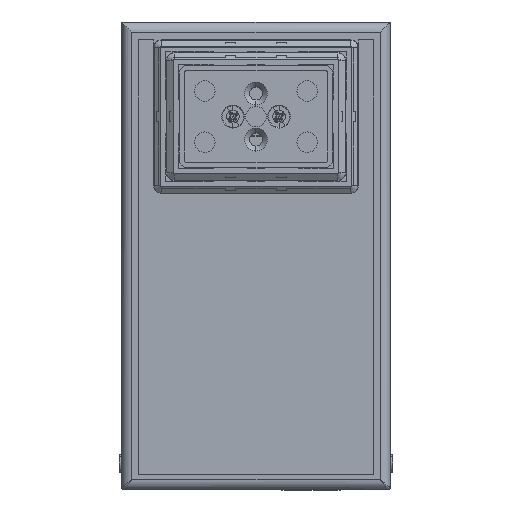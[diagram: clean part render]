
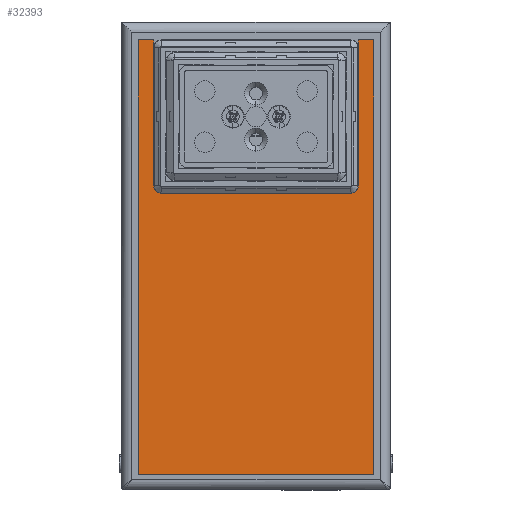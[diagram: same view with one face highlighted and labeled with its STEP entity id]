
A CAD part, front view. The second image highlights one B-rep face of the part: STEP entity #32393.
In plain terms, the highlighted planar face has unit normal (0, -1, 0).
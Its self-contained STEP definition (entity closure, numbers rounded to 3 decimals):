
#661 = DIRECTION ( 'NONE',  ( 0., 1., 0. ) ) ;
#870 = DIRECTION ( 'NONE',  ( -1., 0., 0. ) ) ;
#1010 = CARTESIAN_POINT ( 'NONE',  ( 7.706, 216.018, 592.5 ) ) ;
#2057 = DIRECTION ( 'NONE',  ( 0., 0., -1. ) ) ;
#2787 = CARTESIAN_POINT ( 'NONE',  ( -75.294, 216.018, 652.5 ) ) ;
#3464 = EDGE_CURVE ( 'NONE', #7400, #8303, #13976, .T. ) ;
#4131 = CARTESIAN_POINT ( 'NONE',  ( -69.294, 216.018, 595.5 ) ) ;
#4850 = CARTESIAN_POINT ( 'NONE',  ( 7.706, 216.018, 595.5 ) ) ;
#5019 = DIRECTION ( 'NONE',  ( -1., 0., 0. ) ) ;
#5298 = CARTESIAN_POINT ( 'NONE',  ( -75.294, 216.018, 652.5 ) ) ;
#5343 = VECTOR ( 'NONE', #16591, 1000. ) ;
#5504 = ORIENTED_EDGE ( 'NONE', *, *, #3464, .T. ) ;
#5518 = VERTEX_POINT ( 'NONE', #13903 ) ;
#6473 = CIRCLE ( 'NONE', #35735, 3. ) ;
#6495 = ORIENTED_EDGE ( 'NONE', *, *, #31707, .T. ) ;
#6532 = ORIENTED_EDGE ( 'NONE', *, *, #15066, .T. ) ;
#6822 = VERTEX_POINT ( 'NONE', #20670 ) ;
#7025 = CARTESIAN_POINT ( 'NONE',  ( -69.294, 216.018, 595.5 ) ) ;
#7400 = VERTEX_POINT ( 'NONE', #13274 ) ;
#8060 = CARTESIAN_POINT ( 'NONE',  ( -75.294, 216.018, 482.5 ) ) ;
#8303 = VERTEX_POINT ( 'NONE', #18655 ) ;
#8936 = VERTEX_POINT ( 'NONE', #8060 ) ;
#9476 = ORIENTED_EDGE ( 'NONE', *, *, #22861, .T. ) ;
#9868 = VECTOR ( 'NONE', #36052, 1000. ) ;
#10142 = VECTOR ( 'NONE', #870, 1000. ) ;
#11191 = LINE ( 'NONE', #43189, #45059 ) ;
#11427 = DIRECTION ( 'NONE',  ( -1., 0., 0. ) ) ;
#11631 = CARTESIAN_POINT ( 'NONE',  ( 10.706, 216.018, 652.5 ) ) ;
#12369 = CARTESIAN_POINT ( 'NONE',  ( 7.706, 216.018, 595.5 ) ) ;
#13274 = CARTESIAN_POINT ( 'NONE',  ( 7.706, 216.018, 592.5 ) ) ;
#13903 = CARTESIAN_POINT ( 'NONE',  ( 16.706, 216.018, 652.5 ) ) ;
#13976 = LINE ( 'NONE', #1010, #23433 ) ;
#14742 = VECTOR ( 'NONE', #43099, 1000. ) ;
#15066 = EDGE_CURVE ( 'NONE', #35042, #6822, #26773, .T. ) ;
#15734 = CARTESIAN_POINT ( 'NONE',  ( 16.706, 216.018, 652.5 ) ) ;
#15793 = CARTESIAN_POINT ( 'NONE',  ( -69.294, 216.018, 649.5 ) ) ;
#15996 = VECTOR ( 'NONE', #2057, 1000. ) ;
#16124 = VECTOR ( 'NONE', #49189, 1000. ) ;
#16265 = VECTOR ( 'NONE', #48865, 1000. ) ;
#16571 = CARTESIAN_POINT ( 'NONE',  ( 10.706, 216.018, 595.5 ) ) ;
#16591 = DIRECTION ( 'NONE',  ( 0., 0., 1. ) ) ;
#16902 = LINE ( 'NONE', #5298, #22556 ) ;
#17366 = EDGE_CURVE ( 'NONE', #6822, #17806, #37307, .T. ) ;
#17557 = VERTEX_POINT ( 'NONE', #31283 ) ;
#17645 = CARTESIAN_POINT ( 'NONE',  ( 10.706, 216.018, 652.5 ) ) ;
#17659 = EDGE_CURVE ( 'NONE', #8303, #42435, #25996, .T. ) ;
#17727 = LINE ( 'NONE', #32751, #10142 ) ;
#17728 = ORIENTED_EDGE ( 'NONE', *, *, #42860, .T. ) ;
#17806 = VERTEX_POINT ( 'NONE', #16571 ) ;
#18655 = CARTESIAN_POINT ( 'NONE',  ( -66.294, 216.018, 592.5 ) ) ;
#19775 = CARTESIAN_POINT ( 'NONE',  ( 16.706, 216.018, 482.5 ) ) ;
#20670 = CARTESIAN_POINT ( 'NONE',  ( 10.706, 216.018, 649.5 ) ) ;
#20673 = LINE ( 'NONE', #36289, #16265 ) ;
#20833 = ORIENTED_EDGE ( 'NONE', *, *, #51980, .T. ) ;
#21129 = ORIENTED_EDGE ( 'NONE', *, *, #40643, .T. ) ;
#22556 = VECTOR ( 'NONE', #45394, 1000. ) ;
#22861 = EDGE_CURVE ( 'NONE', #30000, #8936, #16902, .T. ) ;
#23421 = CARTESIAN_POINT ( 'NONE',  ( -66.294, 216.018, 595.5 ) ) ;
#23433 = VECTOR ( 'NONE', #44607, 1000. ) ;
#25996 = CIRCLE ( 'NONE', #48363, 3. ) ;
#26214 = EDGE_CURVE ( 'NONE', #26284, #17557, #49216, .T. ) ;
#26284 = VERTEX_POINT ( 'NONE', #15793 ) ;
#26773 = LINE ( 'NONE', #45167, #16124 ) ;
#26897 = AXIS2_PLACEMENT_3D ( 'NONE', #4850, #36921, #5019 ) ;
#27284 = DIRECTION ( 'NONE',  ( 1., 0., 0. ) ) ;
#30000 = VERTEX_POINT ( 'NONE', #2787 ) ;
#30407 = ORIENTED_EDGE ( 'NONE', *, *, #26214, .T. ) ;
#31283 = CARTESIAN_POINT ( 'NONE',  ( -69.294, 216.018, 652.5 ) ) ;
#31707 = EDGE_CURVE ( 'NONE', #5518, #35042, #20673, .T. ) ;
#31832 = FACE_OUTER_BOUND ( 'NONE', #48320, .T. ) ;
#32183 = EDGE_CURVE ( 'NONE', #50278, #5518, #36261, .T. ) ;
#32393 = ADVANCED_FACE ( 'NONE', ( #31832 ), #36756, .T. ) ;
#32751 = CARTESIAN_POINT ( 'NONE',  ( -75.294, 216.018, 652.5 ) ) ;
#33953 = ORIENTED_EDGE ( 'NONE', *, *, #17659, .T. ) ;
#35042 = VERTEX_POINT ( 'NONE', #11631 ) ;
#35735 = AXIS2_PLACEMENT_3D ( 'NONE', #12369, #661, #40446 ) ;
#36052 = DIRECTION ( 'NONE',  ( 0., 0., 1. ) ) ;
#36261 = LINE ( 'NONE', #15734, #9868 ) ;
#36289 = CARTESIAN_POINT ( 'NONE',  ( 10.706, 216.018, 652.5 ) ) ;
#36604 = ORIENTED_EDGE ( 'NONE', *, *, #45211, .T. ) ;
#36756 = PLANE ( 'NONE',  #26897 ) ;
#36921 = DIRECTION ( 'NONE',  ( 0., -1., 0. ) ) ;
#37307 = LINE ( 'NONE', #17645, #15996 ) ;
#40446 = DIRECTION ( 'NONE',  ( -1., 0., 0. ) ) ;
#40643 = EDGE_CURVE ( 'NONE', #42435, #26284, #47330, .T. ) ;
#41908 = ORIENTED_EDGE ( 'NONE', *, *, #17366, .T. ) ;
#42435 = VERTEX_POINT ( 'NONE', #44478 ) ;
#42860 = EDGE_CURVE ( 'NONE', #17806, #7400, #6473, .T. ) ;
#43099 = DIRECTION ( 'NONE',  ( 0., 0., 1. ) ) ;
#43189 = CARTESIAN_POINT ( 'NONE',  ( 16.706, 216.018, 482.5 ) ) ;
#44478 = CARTESIAN_POINT ( 'NONE',  ( -69.294, 216.018, 595.5 ) ) ;
#44607 = DIRECTION ( 'NONE',  ( -1., 0., 0. ) ) ;
#45059 = VECTOR ( 'NONE', #27284, 1000. ) ;
#45167 = CARTESIAN_POINT ( 'NONE',  ( 10.706, 216.018, 652.5 ) ) ;
#45211 = EDGE_CURVE ( 'NONE', #8936, #50278, #11191, .T. ) ;
#45394 = DIRECTION ( 'NONE',  ( 0., 0., -1. ) ) ;
#47330 = LINE ( 'NONE', #4131, #5343 ) ;
#48320 = EDGE_LOOP ( 'NONE', ( #17728, #5504, #33953, #21129, #30407, #20833, #9476, #36604, #49085, #6495, #6532, #41908 ) ) ;
#48363 = AXIS2_PLACEMENT_3D ( 'NONE', #23421, #51567, #11427 ) ;
#48865 = DIRECTION ( 'NONE',  ( -1., 0., 0. ) ) ;
#49085 = ORIENTED_EDGE ( 'NONE', *, *, #32183, .T. ) ;
#49189 = DIRECTION ( 'NONE',  ( 0., 0., -1. ) ) ;
#49216 = LINE ( 'NONE', #7025, #14742 ) ;
#50278 = VERTEX_POINT ( 'NONE', #19775 ) ;
#51567 = DIRECTION ( 'NONE',  ( 0., 1., 0. ) ) ;
#51980 = EDGE_CURVE ( 'NONE', #17557, #30000, #17727, .T. ) ;
